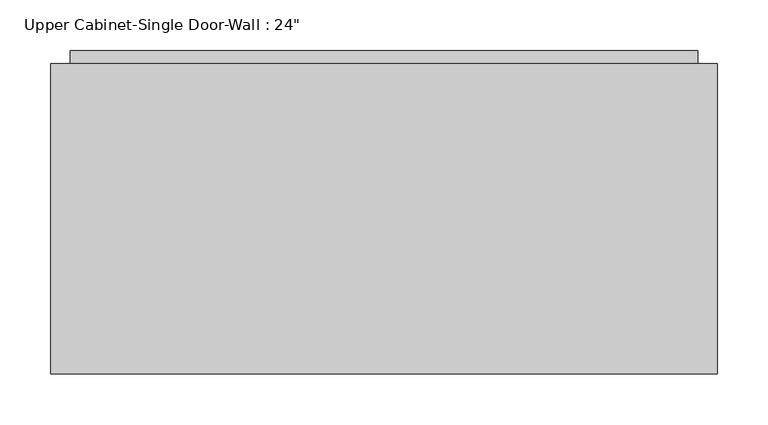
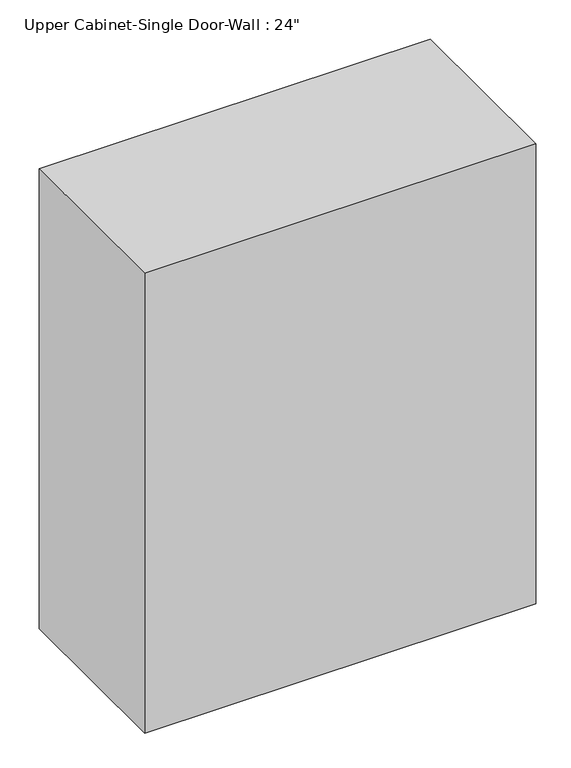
"""IFC4 building model written with IfcOpenShell, lengths in millimetres: furniture geometry."""

from ifc_helpers import new_model, si_unit, frame, origin, place, context, project, spatial, polyline, outline, extrude, faceted_brep, source, transform, mapped, element, save


def furniture_4516e806(model_context):
    return source(origin(), model_context, "Body", "SolidModel", [
        faceted_brep([(-395.6788372, 57.15, 2133.6), (-395.6788372, 57.15, 1320.8), (258.3711628, 57.15, 1320.8), (258.3711628, 57.15, 2133.6), (-395.6788372, 361.95, 2133.6), (258.3711628, 361.95, 2133.6), (258.3711628, 361.95, 1320.8), (-395.6788372, 361.95, 1320.8), (-376.6288372, 361.95, 2114.55), (-376.6288372, 361.95, 1339.85), (239.3211628, 361.95, 1339.85), (239.3211628, 361.95, 2114.55), (239.3211628, 76.2, 2114.55), (-376.6288372, 76.2, 2114.55), (239.3211628, 76.2, 1339.85), (-376.6288372, 76.2, 1339.85)], [[[0, 1, 2, 3]], [[4, 5, 6, 7], [8, 9, 10, 11]], [[1, 0, 4, 7]], [[2, 1, 7, 6]], [[3, 2, 6, 5]], [[0, 3, 5, 4]], [[8, 11, 12, 13]], [[11, 10, 14, 12]], [[10, 9, 15, 14]], [[9, 8, 13, 15]], [[13, 12, 14, 15]]]),
        extrude(outline(polyline([(-376.6288372, 374.65), (239.3211628, 374.65), (239.3211628, 342.9), (-376.6288372, 342.9), (-376.6288372, 374.65)])), frame((0.0, 0.0, 1339.85), z_axis=(0.0, 0.0, 1.0), x_axis=(1.0, 0.0, 0.0)), (0.0, 0.0, 1.0), 774.7),
    ])


if __name__ == "__main__":
    model = new_model("IFC4")
    model_context = context("Model", 3, world=origin())
    ifc_project = project(units=[si_unit("LENGTHUNIT", "METRE", prefix="MILLI")], contexts=[model_context])
    site = spatial("IfcSite", under=ifc_project)
    building = spatial("IfcBuilding", under=site)
    placement = place(None, origin())
    furniture_shape = furniture_4516e806(model_context)
    element("IfcFurniture", 1, ObjectType="Upper Cabinet-Single Door-Wall : 24\"", at=placement, inside=building, context=model_context, shape_type="MappedRepresentation", body=[
        mapped(furniture_shape, transform((0.0, 0.0, 0.0), x_axis=(1.0, 0.0, 0.0), y_axis=(0.0, 1.0, 0.0), z_axis=(0.0, 0.0, 1.0))),
    ])
    save(model, "model.ifc")
